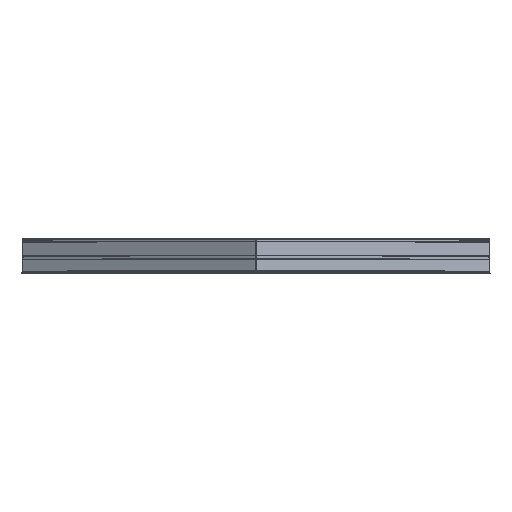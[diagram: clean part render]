
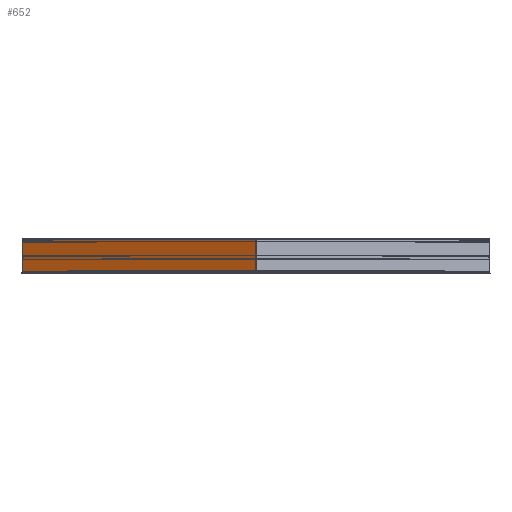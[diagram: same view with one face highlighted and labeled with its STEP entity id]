
A CAD part, top view. The second image highlights one B-rep face of the part: STEP entity #652.
In plain terms, the highlighted planar face has unit normal (-0.5, 0, 0.866) as drawn and (-1, 0, 0) by its records, which use the part's own axes.
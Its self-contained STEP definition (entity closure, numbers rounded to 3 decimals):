
#652=ADVANCED_FACE('',(#2424),#2426,.T.);
#2424=FACE_BOUND('',#2425,.T.);
#2425=EDGE_LOOP('',(#5204,#5205,#5206,#5207));
#2426=PLANE('',#2427);
#2427=AXIS2_PLACEMENT_3D('',#2428,#2429,#2430);
#2428=CARTESIAN_POINT('',(-25.,4.,-271.));
#2429=DIRECTION('',(-1.,0.,0.));
#2430=DIRECTION('',(0.,-1.,0.));
#5204=ORIENTED_EDGE('',*,*,#6781,.T.);
#5205=ORIENTED_EDGE('',*,*,#6972,.T.);
#5206=ORIENTED_EDGE('',*,*,#6973,.T.);
#5207=ORIENTED_EDGE('',*,*,#6974,.F.);
#6781=EDGE_CURVE('',#8379,#8376,#8380,.F.);
#6972=EDGE_CURVE('',#8376,#8758,#8760,.T.);
#6973=EDGE_CURVE('',#8758,#8761,#8762,.F.);
#6974=EDGE_CURVE('',#8379,#8761,#8763,.T.);
#8376=VERTEX_POINT('',#11884);
#8379=VERTEX_POINT('',#11890);
#8380=LINE('',#11891,#11892);
#8758=VERTEX_POINT('',#12768);
#8760=LINE('',#12773,#12774);
#8761=VERTEX_POINT('',#12776);
#8762=LINE('',#12777,#12778);
#8763=LINE('',#12780,#12781);
#11884=CARTESIAN_POINT('',(-25.,-63.75,-271.));
#11890=CARTESIAN_POINT('',(-25.,4.,-271.));
#11891=CARTESIAN_POINT('',(-25.,-63.75,-271.));
#11892=VECTOR('',#11893,1.);
#11893=DIRECTION('',(0.,1.,0.));
#12768=CARTESIAN_POINT('',(-25.,-63.75,271.));
#12773=CARTESIAN_POINT('',(-25.,-63.75,-271.));
#12774=VECTOR('',#12775,1.);
#12775=DIRECTION('',(0.,0.,1.));
#12776=CARTESIAN_POINT('',(-25.,4.,271.));
#12777=CARTESIAN_POINT('',(-25.,4.,271.));
#12778=VECTOR('',#12779,1.);
#12779=DIRECTION('',(0.,-1.,0.));
#12780=CARTESIAN_POINT('',(-25.,4.,-271.));
#12781=VECTOR('',#12782,1.);
#12782=DIRECTION('',(0.,0.,1.));
